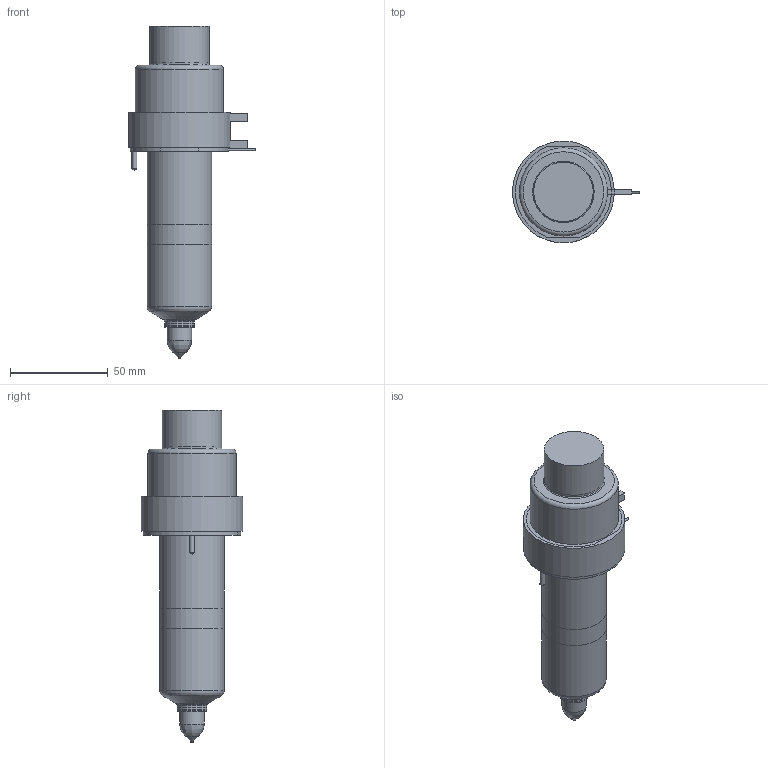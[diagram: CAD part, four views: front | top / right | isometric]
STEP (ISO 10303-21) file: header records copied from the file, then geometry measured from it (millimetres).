
FILE_DESCRIPTION(/* description */ (''),/* implementation_level */ '2;1');
FILE_NAME(/* name */ 'SXTT-SXIT19095-10_250C_b',/* time_stamp */ '2007-01-24T17:35:45+13:00',/* author */ (''),/* organization */ (''),/* preprocessor_version */ 'ST-DEVELOPER v9',/* originating_system */ 'UGS - NX 4.0',/* authorisation */ '');
FILE_SCHEMA (('CONFIG_CONTROL_DESIGN'));
Length unit declared in the file: millimetre
Products named in the file (1): SXTT-SXIT19095-10_250C_b
Bounding box: 64.85 x 52 x 169.55 mm (x, y, z)
Volume: 295864 mm3; surface area: 44368.5 mm2
Topology: 7 solids, 7 shells, 99 faces, 192 edges, 121 vertices
Faces by surface type: plane 45, cylinder 30, cone 12, torus 10, bspline 2
Full cylindrical faces by diameter (mm): 1 x3, 1.2 x1, 2.5 x2, 8 x1, 9 x1, 12.5 x1, 14.61 x1, 15.01 x2, 18.3 x1, 28.6 x1, 30 x1, 30.4 x1, 33 x2, 38.1 x1, 45 x1, 50 x1, 52 x1
Entity records: 2413 total; most frequent: CARTESIAN_POINT 486, DIRECTION 408, ORIENTED_EDGE 282, AXIS2_PLACEMENT_3D 179, EDGE_LOOP 156, EDGE_CURVE 141, VERTEX_POINT 114, ADVANCED_FACE 99
